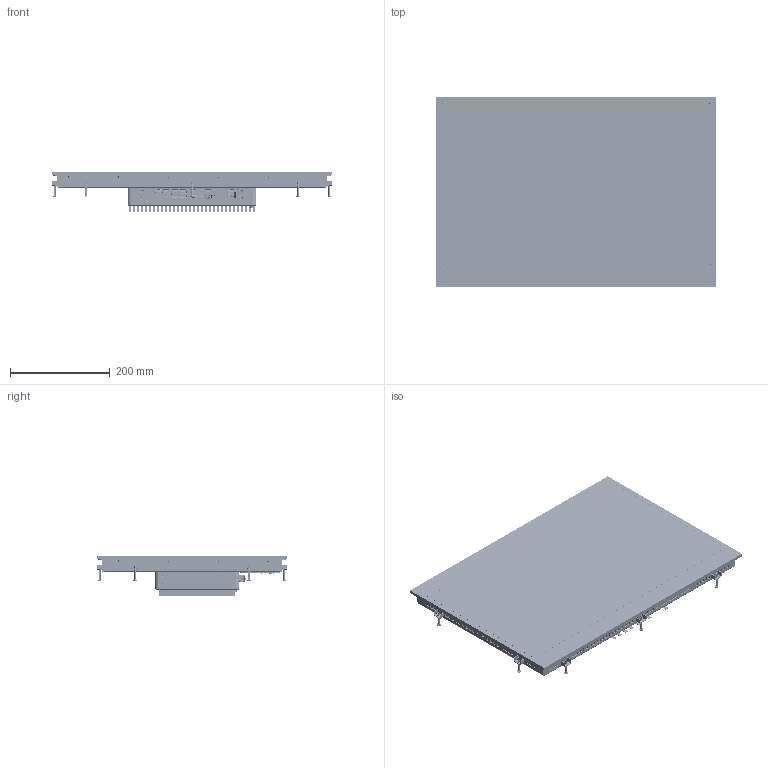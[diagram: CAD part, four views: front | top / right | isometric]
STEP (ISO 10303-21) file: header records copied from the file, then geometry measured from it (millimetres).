
FILE_DESCRIPTION(/* description */ (''),/* implementation_level */ '2;1');
FILE_NAME(/* name */ 'D:\Modelle vereinfacht\notion.S\CPU 14\21.5 Zoll\778-11980-00_EXTERN.stp',/* time_stamp */ '2025-07-09T13:52:41+02:00',/* author */ ('Blessing'),/* organization */ (''),/* preprocessor_version */ 'ST-DEVELOPER v18.1',/* originating_system */ 'Autodesk Inventor 2021',/* authorisation */ '');
FILE_SCHEMA (('AUTOMOTIVE_DESIGN { 1 0 10303 214 3 1 1 }'));
Products named in the file (4): Baugruppe138; 778-11980-EXTERN2; 778-90247_EXTERN_21.5; 64-196-296_EXTERN_CPU14
Assembly tree (3 placements, depth 2):
  Baugruppe138
    778-11980-EXTERN2
    778-90247_EXTERN_21.5
    64-196-296_EXTERN_CPU14
Bounding box: 560.6 x 380.6 x 79.4 mm (x, y, z)
Volume: 7987213.8 mm3; surface area: 721928.2 mm2
Topology: 28 solids, 54 shells, 13276 faces, 37452 edges, 24522 vertices
Faces by surface type: plane 8840, cylinder 2892, bspline 806, cone 398, torus 292, sphere 48
Full cylindrical faces by diameter (mm): 0.457 x1, 0.65 x16, 0.95 x32, 2.156 x2, 2.5 x4, 2.8 x2, 3.242 x10, 4 x12, 4.7 x8, 5.54 x29, 6 x11, 6.2 x12, 7 x1, 7.2 x12
Entity records: 464248 total; most frequent: CARTESIAN_POINT 110825, ORIENTED_EDGE 73302, DIRECTION 66231, EDGE_CURVE 37390, LINE 27533, VECTOR 27533, VERTEX_POINT 24522, AXIS2_PLACEMENT_3D 19349
